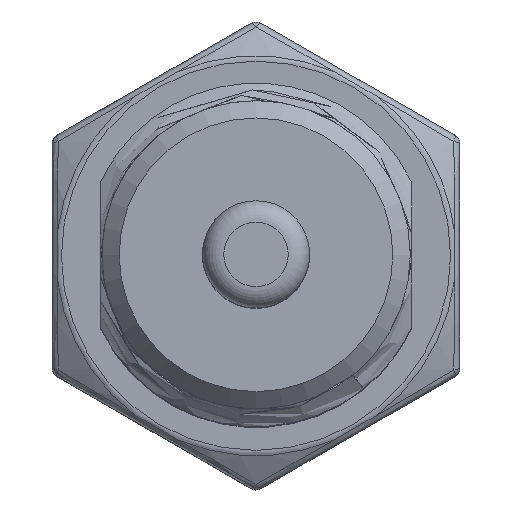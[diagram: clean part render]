
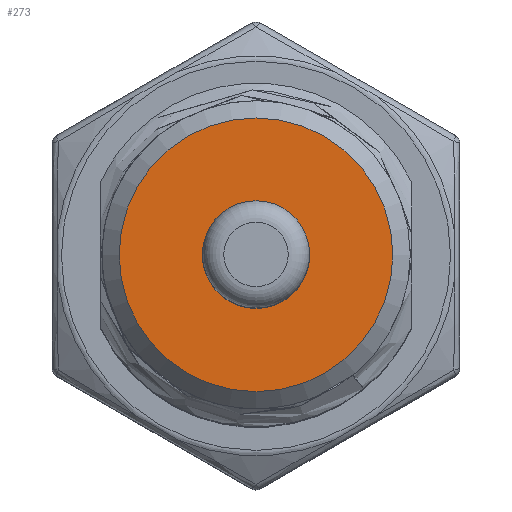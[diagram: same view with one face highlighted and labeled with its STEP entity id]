
A CAD part, top view. The second image highlights one B-rep face of the part: STEP entity #273.
In plain terms, the highlighted planar face has unit normal (0, 0, 1).
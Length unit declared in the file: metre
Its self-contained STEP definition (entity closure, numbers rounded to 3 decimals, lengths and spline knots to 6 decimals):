
#273=ADVANCED_FACE('',(#619),#620,.T.);
#619=FACE_OUTER_BOUND('',#4964,.T.);
#620=PLANE('',#4965);
#4964=EDGE_LOOP('',(#7392));
#4965=AXIS2_PLACEMENT_3D('',#7393,#7394,#7395);
#7392=ORIENTED_EDGE('',*,*,#8135,.T.);
#7393=CARTESIAN_POINT('',(0.0,0.0,0.0655));
#7394=DIRECTION('',(0.0,0.0,1.0));
#7395=DIRECTION('',(1.0,0.0,0.0));
#8135=EDGE_CURVE('',#8819,#8819,#8820,.T.);
#8819=VERTEX_POINT('',#13771);
#8820=CIRCLE('',#13772,0.006376);
#13771=CARTESIAN_POINT('',(0.006376,0.0,0.0655));
#13772=AXIS2_PLACEMENT_3D('',#15023,#15024,#15025);
#15023=CARTESIAN_POINT('',(0.0,0.0,0.0655));
#15024=DIRECTION('',(0.0,0.0,1.0));
#15025=DIRECTION('',(1.0,0.0,0.0));
